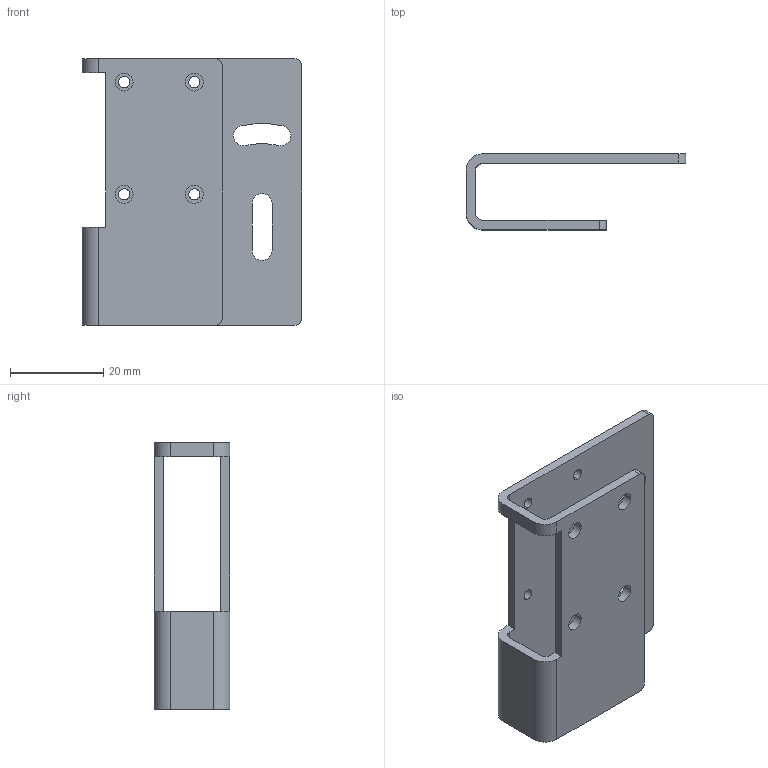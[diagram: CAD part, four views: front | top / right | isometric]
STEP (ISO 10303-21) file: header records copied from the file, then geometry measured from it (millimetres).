
FILE_DESCRIPTION((''),'2;1');
FILE_NAME('15300974_MSP F20-21.stp','2011-10-20T09:37:58',(''),(''),'Mechanical Desktop 2009','Mechanical Desktop 2009',', , ');
FILE_SCHEMA(('CONFIG_CONTROL_DESIGN'));
Length unit declared in the file: millimetre
Products named in the file (2): 04113196; TEIL1
Assembly tree (1 placements, depth 2):
  04113196
    TEIL1
Bounding box: 47 x 16.25 x 57 mm (x, y, z)
Volume: 8258.7 mm3; surface area: 9324.5 mm2
Topology: 1 solids, 1 shells, 52 faces, 156 edges, 104 vertices
Faces by surface type: cylinder 34, plane 18
Entity records: 1941 total; most frequent: DIRECTION 332, CARTESIAN_POINT 314, ORIENTED_EDGE 312, EDGE_CURVE 156, AXIS2_PLACEMENT_3D 122, VERTEX_POINT 104, VECTOR 88, LINE 88
